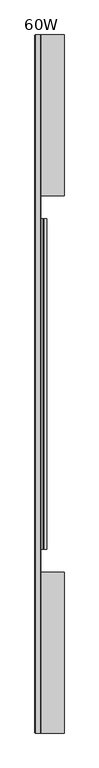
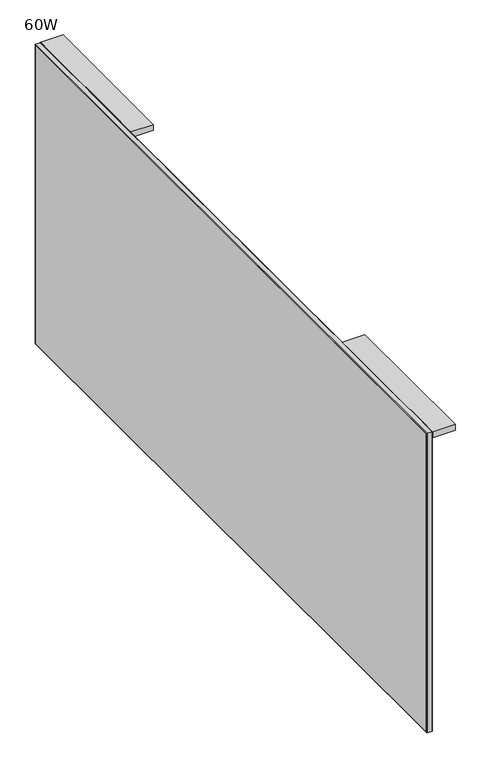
"""IFC4 building model written with IfcOpenShell, lengths in millimetres: furniture geometry, Steelcase Turnstone - Bivi - Accessories - End Panel : 60W."""

from ifc_helpers import new_model, si_unit, point, frame, frame_2d, origin, place, context, project, spatial, polyline, circle_curve, ellipse_curve, trimmed, segment, composite_curve, outline, extrude, source, transform, mapped, element, save
from ifc_brep_helpers import plane_surface, cylinder_surface, advanced_brep


def furniture_60w_907c8dee(model_context):
    return source(origin(), model_context, "Body", "SolidModel", [
        extrude(outline(composite_curve([segment(polyline([(630.4361313, 119.0752), (630.4361313, 120.8611375), (691.0021866, 120.8611375)]), True, "CONTINUOUS"), segment(trimmed(circle_curve(frame_2d((691.0021866, 121.384958)), 0.5238205), [point((691.0021866, 120.8611375))], [point((691.5260071, 121.384958))], True, "CARTESIAN"), True, "CONTINUOUS"), segment(polyline([(691.5260071, 121.384958), (691.5260071, 124.9222768), (687.0961903, 130.8008425), (688.6216608, 131.9502871), (692.8114436, 126.3899459)]), True, "CONTINUOUS"), segment(trimmed(circle_curve(frame_2d((690.3338715, 124.523066)), 3.1021934), [point((692.8114436, 126.3899459))], [point((693.4360649, 124.523066))], False, "CARTESIAN"), True, "CONTINUOUS"), segment(polyline([(693.4360649, 124.523066), (693.4360649, 119.0752), (630.4361313, 119.0752)]), True, "CONTINUOUS")], self_intersect=False)), frame((0.0, -465.8497752, 0.0), z_axis=(0.0, 1.0, 0.0), x_axis=(0.0, 0.0, 1.0)), (0.0, 0.0, 1.0), 721.9999297),
        extrude(outline(polyline([(169.5750247, 657.1505008), (169.5750247, 306.2605414), (119.0751956, 306.2605414), (119.0751956, 657.1505008), (169.5750247, 657.1505008)])), frame((0.0, 0.0, 709.93), z_axis=(0.0, 0.0, 1.0), x_axis=(1.0, 0.0, 0.0)), (0.0, 0.0, 1.0), 13.97),
        extrude(outline(polyline([(169.57522, -516.08196), (169.57522, -866.8502259), (119.0752, -866.8502259), (119.0752, -516.08196), (169.57522, -516.08196)])), frame((0.0, 0.0, 709.93), z_axis=(0.0, 0.0, 1.0), x_axis=(1.0, 0.0, 0.0)), (0.0, 0.0, 1.0), 13.97),
        advanced_brep(
        [(106.045569, -865.7858221, 13.9625365), (119.0751516, -865.7858221, 13.9625365), (119.0751516, 656.0883387, 13.9625365), (106.045569, 656.0883387, 13.9625365), (107.1068898, -866.8471914, 12.9011672), (107.1068898, 657.149708, 12.9011672), (118.0138307, -866.8471914, 12.9011672), (118.0138307, 657.149708, 12.9011672), (119.0751516, 656.0883387, 722.8386307), (106.045569, 656.0883387, 722.8386307), (107.1068898, 657.149708, 723.9), (118.0138307, 657.149708, 723.9), (119.0751516, -865.7858221, 722.8386307), (106.045569, -865.7858221, 722.8386307), (107.1068898, -866.8471914, 723.9), (118.0138307, -866.8471914, 723.9)],
        [
            (0, 1),
            (1, 2),
            (2, 3),
            (3, 0),
            (4, 0, ellipse_curve(frame((107.1068898, -865.7858705, 13.962488), z_axis=(0.0, 0.7071067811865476, -0.7071067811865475), x_axis=(0.0, -0.7071067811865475, -0.7071067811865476)), 1.5009344, 1.0613209)),
            (3, 5, ellipse_curve(frame((107.1068898, 656.0883871, 13.962488), z_axis=(0.0, -0.7071067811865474, -0.7071067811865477), x_axis=(0.0, -0.7071067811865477, 0.7071067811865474)), 1.5009344, 1.0613209)),
            (5, 4),
            (6, 4),
            (5, 7),
            (7, 6),
            (1, 6, ellipse_curve(frame((118.0138307, -865.7858705, 13.962488), z_axis=(0.0, 0.7071067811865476, -0.7071067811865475), x_axis=(0.0, -0.7071067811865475, -0.7071067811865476)), 1.5009344, 1.0613209)),
            (7, 2, ellipse_curve(frame((118.0138307, 656.0883871, 13.962488), z_axis=(0.0, -0.7071067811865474, -0.7071067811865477), x_axis=(0.0, -0.7071067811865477, 0.7071067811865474)), 1.5009344, 1.0613209)),
            (2, 8),
            (8, 9),
            (9, 3),
            (9, 10, ellipse_curve(frame((107.1068898, 656.0883871, 722.8386791), z_axis=(0.0, 0.7071067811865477, -0.7071067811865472), x_axis=(0.0, -0.7071067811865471, -0.7071067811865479)), 1.5009344, 1.0613209)),
            (10, 5),
            (10, 11),
            (11, 7),
            (11, 8, ellipse_curve(frame((118.0138307, 656.0883871, 722.8386791), z_axis=(0.0, 0.7071067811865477, -0.7071067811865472), x_axis=(0.0, -0.7071067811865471, -0.7071067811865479)), 1.5009344, 1.0613209)),
            (8, 12),
            (12, 13),
            (13, 9),
            (13, 14, ellipse_curve(frame((107.1068898, -865.7858705, 722.8386791), z_axis=(0.0, 0.7071067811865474, 0.7071067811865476), x_axis=(0.0, 0.7071067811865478, -0.7071067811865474)), 1.5009344, 1.0613209)),
            (14, 10),
            (14, 15),
            (15, 11),
            (15, 12, ellipse_curve(frame((118.0138307, -865.7858705, 722.8386791), z_axis=(0.0, 0.7071067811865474, 0.7071067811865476), x_axis=(0.0, 0.7071067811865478, -0.7071067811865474)), 1.5009344, 1.0613209)),
            (12, 1),
            (0, 13),
            (4, 14),
            (6, 15),
        ],
        [
            plane_surface(frame((119.0751516, -865.7858221, 13.9625365), z_axis=(0.0, 0.0, 1.0), x_axis=(0.0, 1.0, 0.0))),
            cylinder_surface(frame((107.1068898, -865.7858221, 13.962488), z_axis=(0.0, -1.0, 0.0), x_axis=(1.0, 0.0, 0.0)), 1.0613209),
            plane_surface(frame((107.1068898, -866.8471914, 12.9011672), z_axis=(0.0, 0.0, -1.0), x_axis=(0.0, 1.0, 0.0))),
            cylinder_surface(frame((118.0138307, -865.7858221, 13.962488), z_axis=(0.0, -1.0, 0.0), x_axis=(1.0, 0.0, 0.0)), 1.0613209),
            plane_surface(frame((119.0751516, 656.0883387, 13.9625365), z_axis=(0.0, -1.0, 0.0), x_axis=(0.0, 0.0, 1.0))),
            cylinder_surface(frame((107.1068898, 656.0883871, 13.9625365), z_axis=(0.0, 0.0, -1.0), x_axis=(1.0, 0.0, 0.0)), 1.0613209),
            plane_surface(frame((107.1068898, 657.149708, 12.9011672), z_axis=(0.0, 1.0, 0.0), x_axis=(0.0, 0.0, 1.0))),
            cylinder_surface(frame((118.0138307, 656.0883871, 13.9625365), z_axis=(0.0, 0.0, -1.0), x_axis=(1.0, 0.0, 0.0)), 1.0613209),
            plane_surface(frame((119.0751516, 656.0883387, 722.8386307), z_axis=(0.0, 0.0, -1.0), x_axis=(0.0, -1.0, 0.0))),
            cylinder_surface(frame((107.1068898, 656.0883387, 722.8386791), z_axis=(0.0, 1.0, 0.0), x_axis=(1.0, 0.0, 0.0)), 1.0613209),
            plane_surface(frame((107.1068898, 657.149708, 723.9), z_axis=(0.0, 0.0, 1.0), x_axis=(0.0, -1.0, 0.0))),
            cylinder_surface(frame((118.0138307, 656.0883387, 722.8386791), z_axis=(0.0, 1.0, 0.0), x_axis=(1.0, 0.0, 0.0)), 1.0613209),
            plane_surface(frame((119.0751516, -865.7858221, 722.8386307), z_axis=(0.0, 1.0, 0.0), x_axis=(0.0, 0.0, -1.0))),
            cylinder_surface(frame((107.1068898, -865.7858705, 722.8386307), z_axis=(0.0, 0.0, 1.0), x_axis=(1.0, 0.0, 0.0)), 1.0613209),
            plane_surface(frame((107.1068898, -866.8471914, 723.9), z_axis=(0.0, -1.0, 0.0), x_axis=(0.0, 0.0, -1.0))),
            cylinder_surface(frame((118.0138307, -865.7858705, 722.8386307), z_axis=(0.0, 0.0, 1.0), x_axis=(1.0, 0.0, 0.0)), 1.0613209),
        ],
        [
            (0, [[1, 2, 3, 4]]),
            (1, [[5, -4, 6, 7]]),
            (2, [[8, -7, 9, 10]]),
            (3, [[11, -10, 12, -2]]),
            (4, [[-3, 13, 14, 15]]),
            (5, [[-6, -15, 16, 17]]),
            (6, [[-9, -17, 18, 19]]),
            (7, [[-12, -19, 20, -13]]),
            (8, [[-14, 21, 22, 23]]),
            (9, [[-16, -23, 24, 25]]),
            (10, [[-18, -25, 26, 27]]),
            (11, [[-20, -27, 28, -21]]),
            (12, [[-22, 29, -1, 30]]),
            (13, [[-24, -30, -5, 31]]),
            (14, [[-26, -31, -8, 32]]),
            (15, [[-28, -32, -11, -29]]),
        ],
    ),
        extrude(outline(polyline([(119.0752, 656.0883387), (119.0752, -865.7858705), (106.045569, -865.7858705), (106.045569, 656.0883387), (119.0752, 656.0883387)])), frame((0.0, 0.0, 13.9625365), z_axis=(0.0, 0.0, 1.0), x_axis=(1.0, 0.0, 0.0)), (0.0, 0.0, 1.0), 708.8760942),
    ])


if __name__ == "__main__":
    model = new_model("IFC4")
    model_context = context("Model", 3, world=origin())
    ifc_project = project(units=[si_unit("LENGTHUNIT", "METRE", prefix="MILLI")], contexts=[model_context])
    site = spatial("IfcSite", under=ifc_project)
    building = spatial("IfcBuilding", under=site)
    placement = place(None, origin())
    furniture_60w_shape = furniture_60w_907c8dee(model_context)
    element("IfcFurniture", 1, ObjectType="Steelcase Turnstone - Bivi - Accessories - End Panel : 60W", at=placement, inside=building, context=model_context, shape_type="MappedRepresentation", body=[
        mapped(furniture_60w_shape, transform((0.0, 0.0, 0.0), x_axis=(1.0, 0.0, 0.0), y_axis=(0.0, 1.0, 0.0), z_axis=(0.0, 0.0, 1.0))),
    ])
    save(model, "model.ifc")
